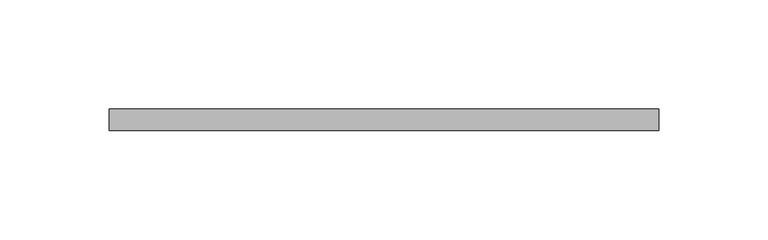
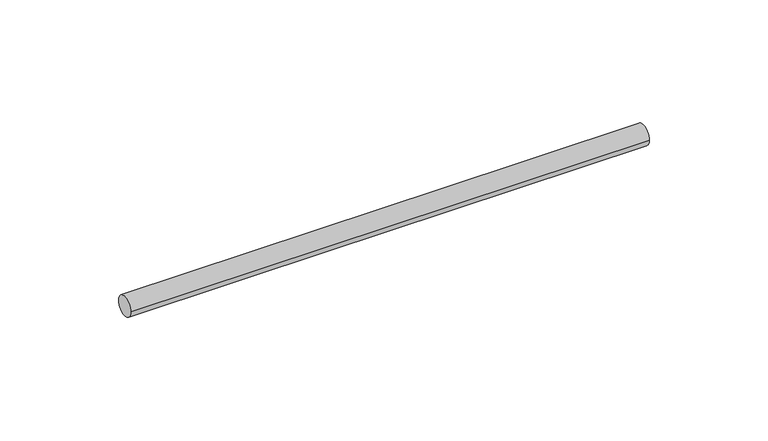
"""IFC4 building model written with IfcOpenShell, lengths in millimetres: valve geometry, Superfix Threaded Rod (used for clamps) : Threaded Rod  Extra  - 1000 mm (used for clamps)."""

from ifc_helpers import new_model, si_unit, point, frame, origin, origin_2d, place, context, project, spatial, circle_curve, trimmed, segment, composite_curve, outline, extrude, source, transform, mapped, element, save


def valve_7fccb85c(model_context):
    return source(origin(), model_context, "Body", "SweptSolid", [
        extrude(outline(composite_curve([segment(trimmed(circle_curve(origin_2d(), 5.0), [point((-5.0, 0.0))], [point((5.0, 0.0))], False, "CARTESIAN"), True, "CONTINUOUS"), segment(trimmed(circle_curve(origin_2d(), 5.0), [point((5.0, 0.0))], [point((-5.0, 0.0))], False, "CARTESIAN"), True, "CONTINUOUS")], self_intersect=False)), frame((-10.0, 0.0, 0.0), z_axis=(1.0, 0.0, 0.0), x_axis=(0.0, 1.0, 0.0)), (0.0, 0.0, 1.0), 252.0),
    ])


if __name__ == "__main__":
    model = new_model("IFC4")
    model_context = context("Model", 3, world=origin())
    ifc_project = project(units=[si_unit("LENGTHUNIT", "METRE", prefix="MILLI")], contexts=[model_context])
    site = spatial("IfcSite", under=ifc_project)
    building = spatial("IfcBuilding", under=site)
    placement = place(None, origin())
    valve_shape = valve_7fccb85c(model_context)
    element("IfcValve", 1, ObjectType="Superfix Threaded Rod (used for clamps) : Threaded Rod  Extra  - 1000 mm (used for clamps)", at=placement, inside=building, context=model_context, shape_type="MappedRepresentation", body=[
        mapped(valve_shape, transform((0.0, 0.0, 0.0), x_axis=(1.0, 0.0, 0.0), y_axis=(0.0, 1.0, 0.0), z_axis=(0.0, 0.0, 1.0))),
    ])
    save(model, "model.ifc")
